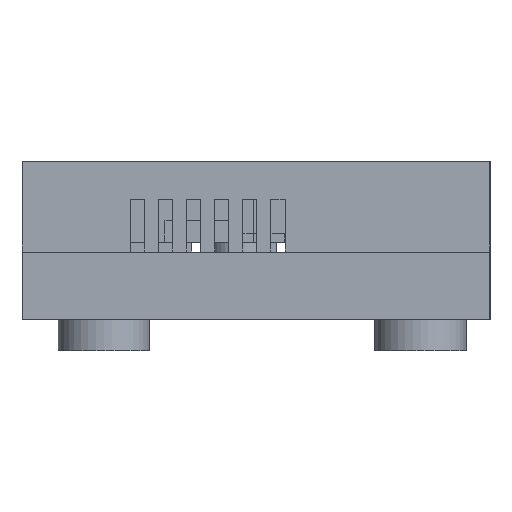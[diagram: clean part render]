
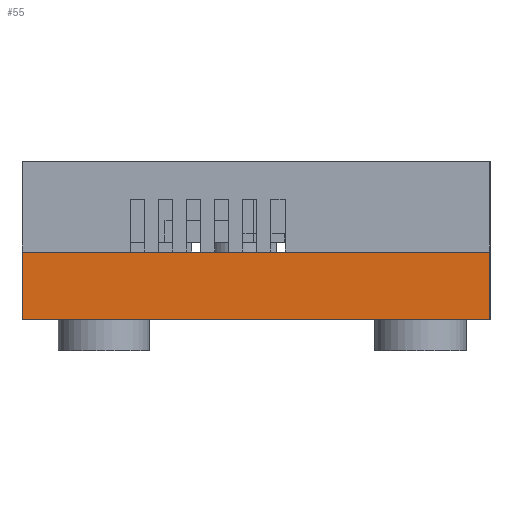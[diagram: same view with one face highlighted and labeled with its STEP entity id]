
A CAD part, left-side view. The second image highlights one B-rep face of the part: STEP entity #55.
In plain terms, the highlighted planar face has unit normal (-1, 0, 0).
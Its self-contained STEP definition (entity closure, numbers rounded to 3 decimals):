
#55 = ADVANCED_FACE('',(#56),#70,.F.);
#56 = FACE_BOUND('',#57,.F.);
#57 = EDGE_LOOP('',(#58,#93,#121,#149));
#58 = ORIENTED_EDGE('',*,*,#59,.F.);
#59 = EDGE_CURVE('',#60,#62,#64,.T.);
#60 = VERTEX_POINT('',#61);
#61 = CARTESIAN_POINT('',(-45.3,-25.9,-6.));
#62 = VERTEX_POINT('',#63);
#63 = CARTESIAN_POINT('',(-45.3,-25.9,1.7));
#64 = SURFACE_CURVE('',#65,(#69,#81),.PCURVE_S1.);
#65 = LINE('',#66,#67);
#66 = CARTESIAN_POINT('',(-45.3,-25.9,-6.));
#67 = VECTOR('',#68,1.);
#68 = DIRECTION('',(0.,0.,1.));
#69 = PCURVE('',#70,#75);
#70 = PLANE('',#71);
#71 = AXIS2_PLACEMENT_3D('',#72,#73,#74);
#72 = CARTESIAN_POINT('',(-45.3,-25.9,-6.));
#73 = DIRECTION('',(1.,0.,-0.));
#74 = DIRECTION('',(0.,0.,1.));
#75 = DEFINITIONAL_REPRESENTATION('',(#76),#80);
#76 = LINE('',#77,#78);
#77 = CARTESIAN_POINT('',(0.,0.));
#78 = VECTOR('',#79,1.);
#79 = DIRECTION('',(1.,0.));
#80 = ( GEOMETRIC_REPRESENTATION_CONTEXT(2) 
PARAMETRIC_REPRESENTATION_CONTEXT() REPRESENTATION_CONTEXT('2D SPACE',''
  ) );
#81 = PCURVE('',#82,#87);
#82 = PLANE('',#83);
#83 = AXIS2_PLACEMENT_3D('',#84,#85,#86);
#84 = CARTESIAN_POINT('',(-45.3,-25.9,-6.));
#85 = DIRECTION('',(-0.,1.,0.));
#86 = DIRECTION('',(0.,0.,1.));
#87 = DEFINITIONAL_REPRESENTATION('',(#88),#92);
#88 = LINE('',#89,#90);
#89 = CARTESIAN_POINT('',(0.,0.));
#90 = VECTOR('',#91,1.);
#91 = DIRECTION('',(1.,0.));
#92 = ( GEOMETRIC_REPRESENTATION_CONTEXT(2) 
PARAMETRIC_REPRESENTATION_CONTEXT() REPRESENTATION_CONTEXT('2D SPACE',''
  ) );
#93 = ORIENTED_EDGE('',*,*,#94,.T.);
#94 = EDGE_CURVE('',#60,#95,#97,.T.);
#95 = VERTEX_POINT('',#96);
#96 = CARTESIAN_POINT('',(-45.3,27.3,-6.));
#97 = SURFACE_CURVE('',#98,(#102,#109),.PCURVE_S1.);
#98 = LINE('',#99,#100);
#99 = CARTESIAN_POINT('',(-45.3,-25.9,-6.));
#100 = VECTOR('',#101,1.);
#101 = DIRECTION('',(-0.,1.,0.));
#102 = PCURVE('',#70,#103);
#103 = DEFINITIONAL_REPRESENTATION('',(#104),#108);
#104 = LINE('',#105,#106);
#105 = CARTESIAN_POINT('',(0.,0.));
#106 = VECTOR('',#107,1.);
#107 = DIRECTION('',(0.,-1.));
#108 = ( GEOMETRIC_REPRESENTATION_CONTEXT(2) 
PARAMETRIC_REPRESENTATION_CONTEXT() REPRESENTATION_CONTEXT('2D SPACE',''
  ) );
#109 = PCURVE('',#110,#115);
#110 = PLANE('',#111);
#111 = AXIS2_PLACEMENT_3D('',#112,#113,#114);
#112 = CARTESIAN_POINT('',(-45.3,-25.9,-6.));
#113 = DIRECTION('',(0.,0.,1.));
#114 = DIRECTION('',(1.,0.,-0.));
#115 = DEFINITIONAL_REPRESENTATION('',(#116),#120);
#116 = LINE('',#117,#118);
#117 = CARTESIAN_POINT('',(0.,0.));
#118 = VECTOR('',#119,1.);
#119 = DIRECTION('',(0.,1.));
#120 = ( GEOMETRIC_REPRESENTATION_CONTEXT(2) 
PARAMETRIC_REPRESENTATION_CONTEXT() REPRESENTATION_CONTEXT('2D SPACE',''
  ) );
#121 = ORIENTED_EDGE('',*,*,#122,.T.);
#122 = EDGE_CURVE('',#95,#123,#125,.T.);
#123 = VERTEX_POINT('',#124);
#124 = CARTESIAN_POINT('',(-45.3,27.3,1.7));
#125 = SURFACE_CURVE('',#126,(#130,#137),.PCURVE_S1.);
#126 = LINE('',#127,#128);
#127 = CARTESIAN_POINT('',(-45.3,27.3,-6.));
#128 = VECTOR('',#129,1.);
#129 = DIRECTION('',(0.,0.,1.));
#130 = PCURVE('',#70,#131);
#131 = DEFINITIONAL_REPRESENTATION('',(#132),#136);
#132 = LINE('',#133,#134);
#133 = CARTESIAN_POINT('',(0.,-53.2));
#134 = VECTOR('',#135,1.);
#135 = DIRECTION('',(1.,0.));
#136 = ( GEOMETRIC_REPRESENTATION_CONTEXT(2) 
PARAMETRIC_REPRESENTATION_CONTEXT() REPRESENTATION_CONTEXT('2D SPACE',''
  ) );
#137 = PCURVE('',#138,#143);
#138 = PLANE('',#139);
#139 = AXIS2_PLACEMENT_3D('',#140,#141,#142);
#140 = CARTESIAN_POINT('',(-45.3,27.3,-6.));
#141 = DIRECTION('',(-0.,1.,0.));
#142 = DIRECTION('',(0.,0.,1.));
#143 = DEFINITIONAL_REPRESENTATION('',(#144),#148);
#144 = LINE('',#145,#146);
#145 = CARTESIAN_POINT('',(0.,0.));
#146 = VECTOR('',#147,1.);
#147 = DIRECTION('',(1.,0.));
#148 = ( GEOMETRIC_REPRESENTATION_CONTEXT(2) 
PARAMETRIC_REPRESENTATION_CONTEXT() REPRESENTATION_CONTEXT('2D SPACE',''
  ) );
#149 = ORIENTED_EDGE('',*,*,#150,.F.);
#150 = EDGE_CURVE('',#62,#123,#151,.T.);
#151 = SURFACE_CURVE('',#152,(#156,#163),.PCURVE_S1.);
#152 = LINE('',#153,#154);
#153 = CARTESIAN_POINT('',(-45.3,-25.9,1.7));
#154 = VECTOR('',#155,1.);
#155 = DIRECTION('',(-0.,1.,0.));
#156 = PCURVE('',#70,#157);
#157 = DEFINITIONAL_REPRESENTATION('',(#158),#162);
#158 = LINE('',#159,#160);
#159 = CARTESIAN_POINT('',(7.7,0.));
#160 = VECTOR('',#161,1.);
#161 = DIRECTION('',(0.,-1.));
#162 = ( GEOMETRIC_REPRESENTATION_CONTEXT(2) 
PARAMETRIC_REPRESENTATION_CONTEXT() REPRESENTATION_CONTEXT('2D SPACE',''
  ) );
#163 = PCURVE('',#164,#169);
#164 = PLANE('',#165);
#165 = AXIS2_PLACEMENT_3D('',#166,#167,#168);
#166 = CARTESIAN_POINT('',(-45.3,-25.9,1.7));
#167 = DIRECTION('',(0.,0.,1.));
#168 = DIRECTION('',(1.,0.,-0.));
#169 = DEFINITIONAL_REPRESENTATION('',(#170),#174);
#170 = LINE('',#171,#172);
#171 = CARTESIAN_POINT('',(0.,0.));
#172 = VECTOR('',#173,1.);
#173 = DIRECTION('',(0.,1.));
#174 = ( GEOMETRIC_REPRESENTATION_CONTEXT(2) 
PARAMETRIC_REPRESENTATION_CONTEXT() REPRESENTATION_CONTEXT('2D SPACE',''
  ) );
